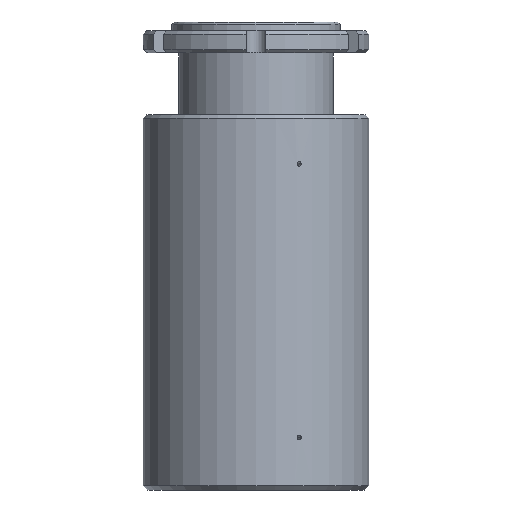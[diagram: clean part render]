
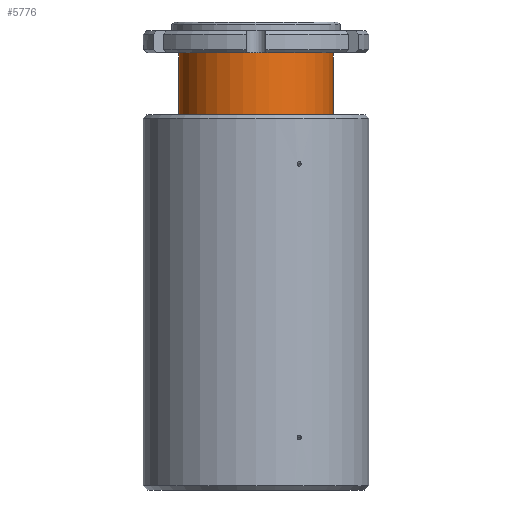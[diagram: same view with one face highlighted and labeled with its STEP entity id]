
A CAD part, front view. The second image highlights one B-rep face of the part: STEP entity #5776.
In plain terms, the highlighted cylindrical face has radius 27.775 mm (diameter 55.55 mm), a partial arc.
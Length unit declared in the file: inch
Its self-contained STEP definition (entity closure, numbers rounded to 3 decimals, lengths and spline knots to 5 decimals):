
#423 = CIRCLE ( 'NONE', #675, 1.0935 ) ;
#461 = VECTOR ( 'NONE', #1594, 39.37008 ) ;
#467 = AXIS2_PLACEMENT_3D ( 'NONE', #4610, #4611, #4612 ) ;
#538 = CIRCLE ( 'NONE', #467, 1.0935 ) ;
#675 = AXIS2_PLACEMENT_3D ( 'NONE', #1157, #1158, #1159 ) ;
#900 = AXIS2_PLACEMENT_3D ( 'NONE', #1255, #1249, #1256 ) ;
#1050 = VECTOR ( 'NONE', #5392, 39.37008 ) ;
#1157 = CARTESIAN_POINT ( 'NONE',  ( 0., 0., -0.437 ) ) ;
#1158 = DIRECTION ( 'NONE',  ( 0., 0., 1. ) ) ;
#1159 = DIRECTION ( 'NONE',  ( 1., 0., 0. ) ) ;
#1249 = DIRECTION ( 'NONE',  ( 0., 0., 1. ) ) ;
#1250 = CYLINDRICAL_SURFACE ( 'NONE', #900, 1.0935 ) ;
#1251 = FACE_OUTER_BOUND ( 'NONE', #3735, .T. ) ;
#1255 = CARTESIAN_POINT ( 'NONE',  ( 0., 0., 0. ) ) ;
#1256 = DIRECTION ( 'NONE',  ( 1., 0., 0. ) ) ;
#1592 = LINE ( 'NONE', #1593, #461 ) ;
#1593 = CARTESIAN_POINT ( 'NONE',  ( 1.0935, 0., 0. ) ) ;
#1594 = DIRECTION ( 'NONE',  ( 0., 0., 1. ) ) ;
#3735 = EDGE_LOOP ( 'NONE', ( #8448, #8462, #8451, #8458 ) ) ;
#3929 = VERTEX_POINT ( 'NONE', #8920 ) ;
#3931 = VERTEX_POINT ( 'NONE', #8922 ) ;
#3932 = VERTEX_POINT ( 'NONE', #8923 ) ;
#3946 = VERTEX_POINT ( 'NONE', #8937 ) ;
#4610 = CARTESIAN_POINT ( 'NONE',  ( 0., 0., -1.31205 ) ) ;
#4611 = DIRECTION ( 'NONE',  ( 0., 0., 1. ) ) ;
#4612 = DIRECTION ( 'NONE',  ( 1., 0., 0. ) ) ;
#5389 = LINE ( 'NONE', #5391, #1050 ) ;
#5391 = CARTESIAN_POINT ( 'NONE',  ( -1.0935, 0., 0. ) ) ;
#5392 = DIRECTION ( 'NONE',  ( 0., 0., 1. ) ) ;
#5757 = EDGE_CURVE ( 'NONE', #3929, #3946, #423, .T. ) ;
#5776 = ADVANCED_FACE ( 'NONE', ( #1251 ), #1250, .T. ) ;
#5852 = EDGE_CURVE ( 'NONE', #3932, #3946, #1592, .T. ) ;
#5983 = EDGE_CURVE ( 'NONE', #3931, #3932, #538, .T. ) ;
#6146 = EDGE_CURVE ( 'NONE', #3931, #3929, #5389, .T. ) ;
#8448 = ORIENTED_EDGE ( 'NONE', *, *, #6146, .F. ) ;
#8451 = ORIENTED_EDGE ( 'NONE', *, *, #5852, .T. ) ;
#8458 = ORIENTED_EDGE ( 'NONE', *, *, #5757, .F. ) ;
#8462 = ORIENTED_EDGE ( 'NONE', *, *, #5983, .T. ) ;
#8920 = CARTESIAN_POINT ( 'NONE',  ( -1.0935, 0., -0.437 ) ) ;
#8922 = CARTESIAN_POINT ( 'NONE',  ( -1.0935, 0., -1.31205 ) ) ;
#8923 = CARTESIAN_POINT ( 'NONE',  ( 1.0935, 0., -1.31205 ) ) ;
#8937 = CARTESIAN_POINT ( 'NONE',  ( 1.0935, 0., -0.437 ) ) ;
